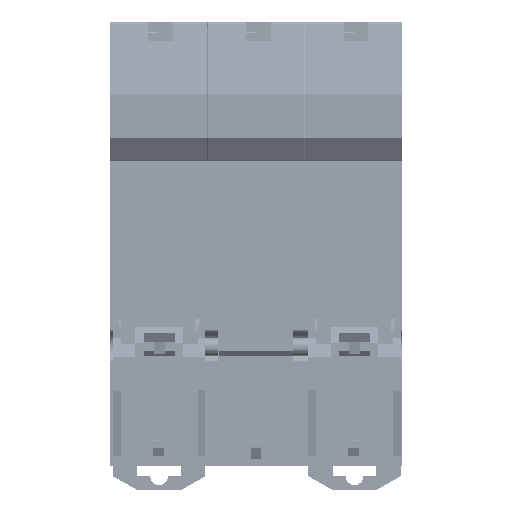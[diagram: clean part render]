
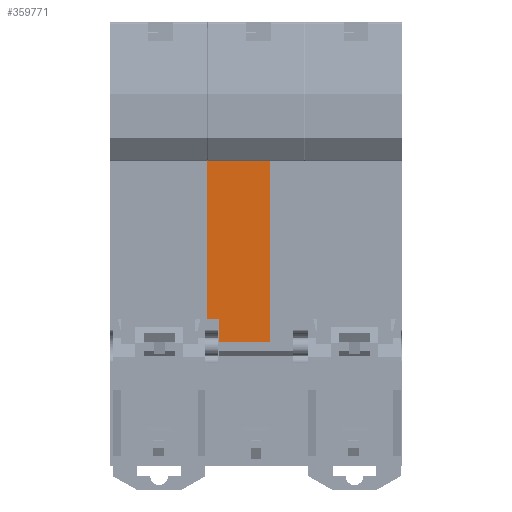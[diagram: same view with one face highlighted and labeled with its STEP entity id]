
A CAD part, left-side view. The second image highlights one B-rep face of the part: STEP entity #359771.
In plain terms, the highlighted planar face has unit normal (-1, 0, 0).
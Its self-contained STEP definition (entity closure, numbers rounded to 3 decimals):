
#13797 = DIRECTION ( 'NONE',  ( 0., 0., 1. ) ) ;
#15921 = CARTESIAN_POINT ( 'NONE',  ( -2.5, 33.45, 26.9 ) ) ;
#26360 = LINE ( 'NONE', #315886, #336589 ) ;
#35208 = EDGE_LOOP ( 'NONE', ( #564219, #522242, #509523, #309616, #160513, #42498 ) ) ;
#42498 = ORIENTED_EDGE ( 'NONE', *, *, #404172, .T. ) ;
#47777 = CARTESIAN_POINT ( 'NONE',  ( -2.5, 35.6, 26.9 ) ) ;
#55202 = DIRECTION ( 'NONE',  ( 1., 0., 0. ) ) ;
#68096 = LINE ( 'NONE', #318412, #492171 ) ;
#101199 = EDGE_CURVE ( 'NONE', #287505, #591348, #26360, .T. ) ;
#130511 = CARTESIAN_POINT ( 'NONE',  ( -2.5, 35.6, 58.1 ) ) ;
#150250 = LINE ( 'NONE', #455614, #490338 ) ;
#159336 = CARTESIAN_POINT ( 'NONE',  ( -2.5, 35.6, 58.1 ) ) ;
#160513 = ORIENTED_EDGE ( 'NONE', *, *, #368879, .T. ) ;
#164072 = CARTESIAN_POINT ( 'NONE',  ( -2.5, 35.6, 26.9 ) ) ;
#171388 = EDGE_CURVE ( 'NONE', #273460, #389841, #609380, .T. ) ;
#185594 = LINE ( 'NONE', #130511, #250081 ) ;
#198386 = FACE_OUTER_BOUND ( 'NONE', #35208, .T. ) ;
#207300 = CARTESIAN_POINT ( 'NONE',  ( -2.5, 35.6, 58.1 ) ) ;
#221790 = VERTEX_POINT ( 'NONE', #207300 ) ;
#224603 = DIRECTION ( 'NONE',  ( 0., -1., 0. ) ) ;
#250081 = VECTOR ( 'NONE', #426263, 1000. ) ;
#273460 = VERTEX_POINT ( 'NONE', #47777 ) ;
#287505 = VERTEX_POINT ( 'NONE', #611003 ) ;
#308775 = DIRECTION ( 'NONE',  ( 0., 1., 0. ) ) ;
#309616 = ORIENTED_EDGE ( 'NONE', *, *, #314938, .T. ) ;
#313637 = EDGE_CURVE ( 'NONE', #389841, #287505, #150250, .T. ) ;
#314938 = EDGE_CURVE ( 'NONE', #591348, #475251, #605624, .T. ) ;
#315886 = CARTESIAN_POINT ( 'NONE',  ( -2.5, 35.6, 22.6 ) ) ;
#318412 = CARTESIAN_POINT ( 'NONE',  ( -2.5, 56.7, 58.1 ) ) ;
#336589 = VECTOR ( 'NONE', #224603, 1000. ) ;
#359771 = ADVANCED_FACE ( 'NONE', ( #198386 ), #585478, .F. ) ;
#362259 = DIRECTION ( 'NONE',  ( 0., -1., 0. ) ) ;
#368879 = EDGE_CURVE ( 'NONE', #475251, #221790, #68096, .T. ) ;
#379256 = VECTOR ( 'NONE', #362259, 1000. ) ;
#389841 = VERTEX_POINT ( 'NONE', #15921 ) ;
#397522 = VECTOR ( 'NONE', #13797, 1000. ) ;
#404172 = EDGE_CURVE ( 'NONE', #221790, #273460, #185594, .T. ) ;
#422162 = AXIS2_PLACEMENT_3D ( 'NONE', #159336, #55202, #601438 ) ;
#426263 = DIRECTION ( 'NONE',  ( 0., 0., -1. ) ) ;
#455614 = CARTESIAN_POINT ( 'NONE',  ( -2.5, 33.45, 58.1 ) ) ;
#475251 = VERTEX_POINT ( 'NONE', #488803 ) ;
#488803 = CARTESIAN_POINT ( 'NONE',  ( -2.5, 24.1, 58.1 ) ) ;
#490338 = VECTOR ( 'NONE', #504281, 1000. ) ;
#492171 = VECTOR ( 'NONE', #308775, 1000. ) ;
#504281 = DIRECTION ( 'NONE',  ( 0., 0., -1. ) ) ;
#509523 = ORIENTED_EDGE ( 'NONE', *, *, #101199, .T. ) ;
#511176 = CARTESIAN_POINT ( 'NONE',  ( -2.5, 24.1, 58.1 ) ) ;
#522242 = ORIENTED_EDGE ( 'NONE', *, *, #313637, .T. ) ;
#564219 = ORIENTED_EDGE ( 'NONE', *, *, #171388, .T. ) ;
#585478 = PLANE ( 'NONE',  #422162 ) ;
#587117 = CARTESIAN_POINT ( 'NONE',  ( -2.5, 24.1, 22.6 ) ) ;
#591348 = VERTEX_POINT ( 'NONE', #587117 ) ;
#601438 = DIRECTION ( 'NONE',  ( 0., 0., 1. ) ) ;
#605624 = LINE ( 'NONE', #511176, #397522 ) ;
#609380 = LINE ( 'NONE', #164072, #379256 ) ;
#611003 = CARTESIAN_POINT ( 'NONE',  ( -2.5, 33.45, 22.6 ) ) ;
